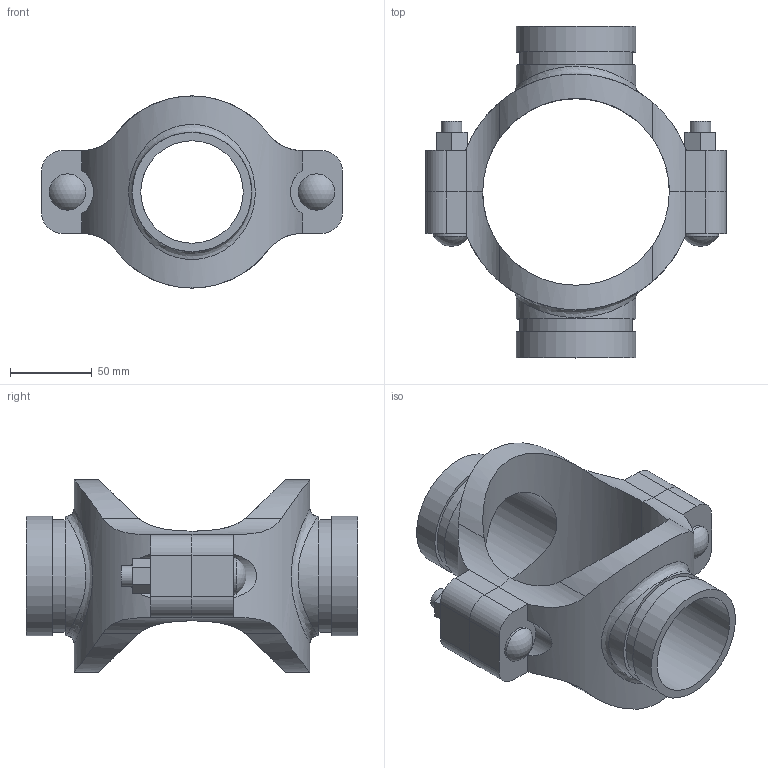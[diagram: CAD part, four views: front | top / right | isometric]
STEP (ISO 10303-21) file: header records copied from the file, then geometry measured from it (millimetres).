
FILE_DESCRIPTION(/* description */ ('VIC MECH-T BRANCH OUTLET CROSS STYLE 920N (GRVD)','CAx-IF Rec.Pracs.---Representation and Presentation of Product Manufacturing Information (PMI)---4.0---2014-10-13'),/* implementation_level */ '2;1');
FILE_NAME(/* name */ 'C:\Users\Vjadhav\AppData\Roaming\Autodesk\ApplicationPlugins\Back Up\Victaulic_IPS_Mechanical-Cross Outlet_Style 920N (OGS)\Victaulic_IPS_Mechanical-Cross Outlet_04.0x02.5x02.5 (100x65x65).stp',/* time_stamp */ '2020-08-06T19:43:52+05:00',/* author */ ('Vjadhav'),/* organization */ ('Victaulic'),/* preprocessor_version */ 'ST-DEVELOPER v17.2',/* originating_system */ 'Autodesk Inventor 2019',/* authorisation */ '');
FILE_SCHEMA (('AP242_MANAGED_MODEL_BASED_3D_ENGINEERING_MIM_LF { 1 0 10303 442 1 1 4 }'));
Length unit declared in the file: inch
Products named in the file (3): 920NG-04.0x02.5x02.5; 920G-04.0x02.5; 920G-04.0x02.5_1
Assembly tree (2 placements, depth 2):
  920NG-04.0x02.5x02.5
    920G-04.0x02.5
    920G-04.0x02.5_1
Bounding box: 184.15 x 203.2 x 117.6 mm (x, y, z)
Volume: 558478.5 mm3; surface area: 129522.6 mm2
Topology: 2 solids, 2 shells, 108 faces, 274 edges, 186 vertices
Faces by surface type: plane 54, cylinder 50, sphere 2, bspline 2
Full cylindrical faces by diameter (mm): 12.7 x4, 22.225 x2, 62.738 x2, 69.088 x2, 73.025 x4
Entity records: 4486 total; most frequent: CARTESIAN_POINT 1605, DIRECTION 552, ORIENTED_EDGE 548, EDGE_CURVE 274, AXIS2_PLACEMENT_3D 201, VERTEX_POINT 186, LINE 150, VECTOR 150
